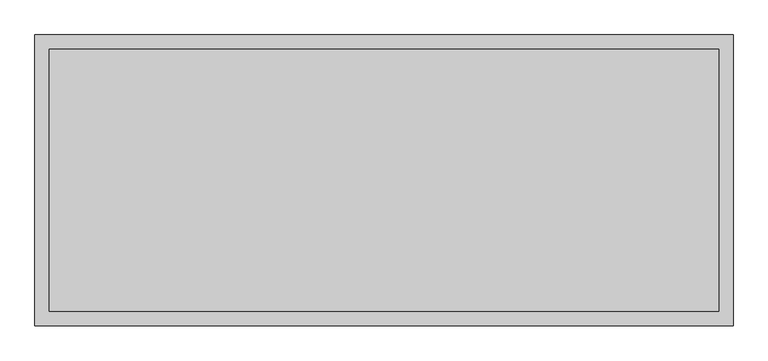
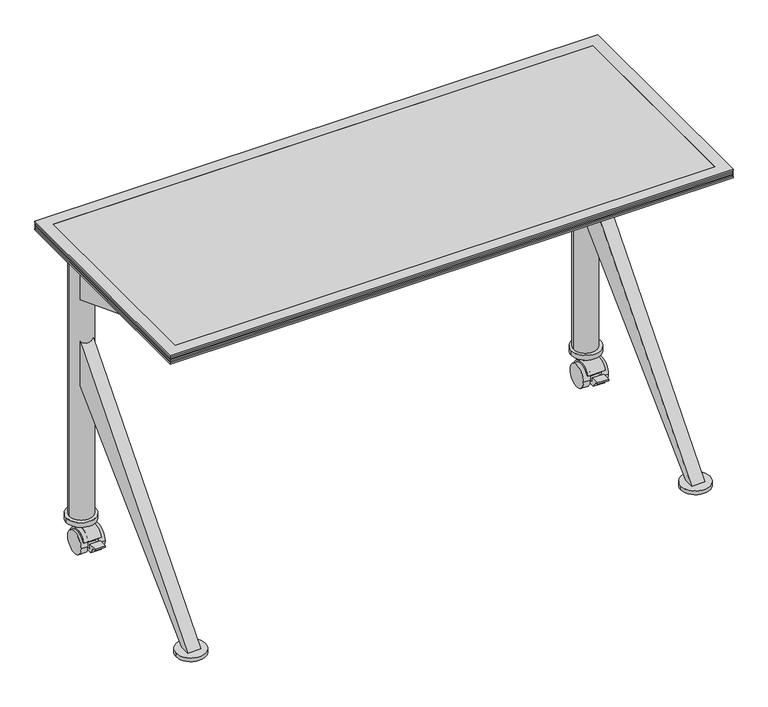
"""IFC4 building model written with IfcOpenShell, lengths in millimetres: furniture geometry, Coalesse_AM_Table_Conference_Ballet_Rectangular_KBase : Folding - 48L x 20W."""

from ifc_helpers import new_model, si_unit, point, frame, frame_2d, origin, origin_with_axes, place, context, project, spatial, polyline, circle_curve, trimmed, segment, composite_curve, outline, extrude, faceted_brep, source, transform, mapped, element, save


def furniture_9557caa1(model_context):
    return source(origin(), model_context, "Body", "SolidModel", [
        extrude(outline(composite_curve([segment(trimmed(circle_curve(frame_2d((-547.0092495, -222.25)), 25.4), [point((-572.4092495, -222.25))], [point((-521.6092495, -222.25))], False, "CARTESIAN"), True, "CONTINUOUS"), segment(trimmed(circle_curve(frame_2d((-547.0092495, -222.25)), 25.4), [point((-521.6092495, -222.25))], [point((-572.4092495, -222.25))], False, "CARTESIAN"), True, "CONTINUOUS")], self_intersect=False)), origin_with_axes(), (0.0, 0.0, 1.0), 4.2936144),
        extrude(outline(composite_curve([segment(trimmed(circle_curve(frame_2d((546.2624629, -222.25)), 25.4), [point((520.8624629, -222.25))], [point((571.6624629, -222.25))], False, "CARTESIAN"), True, "CONTINUOUS"), segment(trimmed(circle_curve(frame_2d((546.2624629, -222.25)), 25.4), [point((571.6624629, -222.25))], [point((520.8624629, -222.25))], False, "CARTESIAN"), True, "CONTINUOUS")], self_intersect=False)), origin_with_axes(), (0.0, 0.0, 1.0), 4.2936144),
        extrude(outline(composite_curve([segment(polyline([(198.5604217, 14.7931869), (195.6491351, 16.4051117)]), True, "CONTINUOUS"), segment(trimmed(circle_curve(frame_2d((172.2336856, 24.9907393)), 24.9398531), [point((195.6491351, 16.4051117))], [point((149.7459564, 35.7749086))], True, "CARTESIAN"), True, "CONTINUOUS"), segment(polyline([(149.7459564, 35.7749086), (146.3203751, 36.8601197)]), True, "CONTINUOUS"), segment(trimmed(circle_curve(frame_2d((171.5646326, 26.7032164)), 27.2109394), [point((146.3203751, 36.8601197))], [point((183.1847122, 51.3082762))], False, "CARTESIAN"), True, "CONTINUOUS"), segment(trimmed(circle_curve(frame_2d((173.1211664, 25.8930561)), 27.3351124), [point((183.1847122, 51.3082762))], [point((198.5604217, 35.8956886))], False, "CARTESIAN"), True, "CONTINUOUS"), segment(trimmed(circle_curve(frame_2d((171.7258895, 25.3444377)), 28.8343721), [point((198.5604217, 35.8956886))], [point((198.5604217, 14.7931869))], False, "CARTESIAN"), True, "CONTINUOUS")], self_intersect=False)), frame((526.2279182, 0.0, 0.0), z_axis=(1.0, 0.0, 0.0), x_axis=(0.0, 1.0, 0.0)), (0.0, 0.0, 1.0), 37.985857),
        extrude(outline(composite_curve([segment(trimmed(circle_curve(frame_2d((172.2336856, 24.9907393)), 24.9398531), [point((147.2938325, 24.9907393))], [point((197.1735388, 24.9907393))], False, "CARTESIAN"), True, "CONTINUOUS"), segment(trimmed(circle_curve(frame_2d((172.2336856, 24.9907393)), 24.9398531), [point((197.1735388, 24.9907393))], [point((147.2938325, 24.9907393))], False, "CARTESIAN"), True, "CONTINUOUS")], self_intersect=False)), frame((517.0801992, 0.0, 0.0), z_axis=(1.0, 0.0, 0.0), x_axis=(0.0, 1.0, 0.0)), (0.0, 0.0, 1.0), 14.732),
        extrude(outline(composite_curve([segment(polyline([(183.1847122, 63.5225277), (198.5604217, 63.5225277), (198.5604217, 35.8956886)]), True, "CONTINUOUS"), segment(trimmed(circle_curve(frame_2d((171.7258895, 25.3444377)), 28.8343721), [point((198.5604217, 35.8956886))], [point((198.5604217, 14.7931869))], False, "CARTESIAN"), True, "CONTINUOUS"), segment(polyline([(198.5604217, 14.7931869), (185.095607, 22.2484025), (182.0197341, 16.6930892)]), True, "CONTINUOUS"), segment(trimmed(circle_curve(frame_2d((172.327305, 25.0010719)), 12.7658043), [point((182.0197341, 16.6930892))], [point((162.0624455, 17.4117096))], False, "CARTESIAN"), True, "CONTINUOUS"), segment(polyline([(162.0624455, 17.4117096), (136.293848, 17.4117096), (127.3223524, 31.7691038), (120.5969156, 31.7691038), (120.5969156, 35.1210973), (139.6469156, 35.1210973), (139.6469156, 25.0010719), (158.9362269, 25.0010719), (161.1998286, 32.1463658), (146.3203751, 36.8601197)]), True, "CONTINUOUS"), segment(trimmed(circle_curve(frame_2d((171.5646326, 26.7032164)), 27.2109394), [point((146.3203751, 36.8601197))], [point((183.1847122, 51.3082762))], False, "CARTESIAN"), True, "CONTINUOUS"), segment(polyline([(183.1847122, 51.3082762), (183.1847122, 63.5225277)]), True, "CONTINUOUS")], self_intersect=False)), frame((531.8121992, 0.0, 0.0), z_axis=(1.0, 0.0, 0.0), x_axis=(0.0, 1.0, 0.0)), (0.0, 0.0, 1.0), 24.5934543),
        extrude(outline(composite_curve([segment(trimmed(circle_curve(frame_2d((172.2336856, 24.9907393)), 24.9398531), [point((147.2938325, 24.9907393))], [point((197.1735388, 24.9907393))], False, "CARTESIAN"), True, "CONTINUOUS"), segment(trimmed(circle_curve(frame_2d((172.2336856, 24.9907393)), 24.9398531), [point((197.1735388, 24.9907393))], [point((147.2938325, 24.9907393))], False, "CARTESIAN"), True, "CONTINUOUS")], self_intersect=False)), frame((556.4056535, 0.0, 0.0), z_axis=(1.0, 0.0, 0.0), x_axis=(0.0, 1.0, 0.0)), (0.0, 0.0, 1.0), 14.732),
        extrude(outline(composite_curve([segment(trimmed(circle_curve(frame_2d((546.9954026, 189.7212308)), 31.75), [point((578.7454026, 189.7212308))], [point((515.2454026, 189.7212308))], False, "CARTESIAN"), True, "CONTINUOUS"), segment(trimmed(circle_curve(frame_2d((546.9954026, 189.7212308)), 31.75), [point((515.2454026, 189.7212308))], [point((578.7454026, 189.7212308))], False, "CARTESIAN"), True, "CONTINUOUS")], self_intersect=False)), frame((0.0, 0.0, 62.0397209), z_axis=(0.0, 0.0, 1.0), x_axis=(1.0, 0.0, 0.0)), (0.0, 0.0, 1.0), 10.7840801),
        extrude(outline(composite_curve([segment(polyline([(198.5604217, 14.7931869), (195.6491351, 16.4051117)]), True, "CONTINUOUS"), segment(trimmed(circle_curve(frame_2d((172.2336856, 24.9907393)), 24.9398531), [point((195.6491351, 16.4051117))], [point((149.7459564, 35.7749086))], True, "CARTESIAN"), True, "CONTINUOUS"), segment(polyline([(149.7459564, 35.7749086), (146.3203751, 36.8601197)]), True, "CONTINUOUS"), segment(trimmed(circle_curve(frame_2d((171.5646326, 26.7032164)), 27.2109394), [point((146.3203751, 36.8601197))], [point((183.1847122, 51.3082762))], False, "CARTESIAN"), True, "CONTINUOUS"), segment(trimmed(circle_curve(frame_2d((173.1211664, 25.8930561)), 27.3351124), [point((183.1847122, 51.3082762))], [point((198.5604217, 35.8956886))], False, "CARTESIAN"), True, "CONTINUOUS"), segment(trimmed(circle_curve(frame_2d((171.7258895, 25.3444377)), 28.8343721), [point((198.5604217, 35.8956886))], [point((198.5604217, 14.7931869))], False, "CARTESIAN"), True, "CONTINUOUS")], self_intersect=False)), frame((-565.6010267, 0.0, 0.0), z_axis=(1.0, 0.0, 0.0), x_axis=(0.0, 1.0, 0.0)), (0.0, 0.0, 1.0), 37.7563315),
        extrude(outline(composite_curve([segment(trimmed(circle_curve(frame_2d((172.2336856, 24.9907393)), 24.9398531), [point((147.2938325, 24.9907393))], [point((197.1735388, 24.9907393))], False, "CARTESIAN"), True, "CONTINUOUS"), segment(trimmed(circle_curve(frame_2d((172.2336856, 24.9907393)), 24.9398531), [point((197.1735388, 24.9907393))], [point((147.2938325, 24.9907393))], False, "CARTESIAN"), True, "CONTINUOUS")], self_intersect=False)), frame((-533.9822707, 0.0, 0.0), z_axis=(1.0, 0.0, 0.0), x_axis=(0.0, 1.0, 0.0)), (0.0, 0.0, 1.0), 14.732),
        extrude(outline(composite_curve([segment(polyline([(183.1847122, 63.5225277), (198.5604217, 63.5225277), (198.5604217, 35.8956886)]), True, "CONTINUOUS"), segment(trimmed(circle_curve(frame_2d((171.7258895, 25.3444377)), 28.8343721), [point((198.5604217, 35.8956886))], [point((198.5604217, 14.7931869))], False, "CARTESIAN"), True, "CONTINUOUS"), segment(polyline([(198.5604217, 14.7931869), (185.095607, 22.2484025), (182.0197341, 16.6930892)]), True, "CONTINUOUS"), segment(trimmed(circle_curve(frame_2d((172.327305, 25.0010719)), 12.7658043), [point((182.0197341, 16.6930892))], [point((162.0624455, 17.4117096))], False, "CARTESIAN"), True, "CONTINUOUS"), segment(polyline([(162.0624455, 17.4117096), (136.293848, 17.4117096), (127.3223524, 31.7691038), (120.5969156, 31.7691038), (120.5969156, 35.1210973), (139.6469156, 35.1210973), (139.6469156, 25.0010719), (158.9362269, 25.0010719), (161.1998286, 32.1463658), (146.3203751, 36.8601197)]), True, "CONTINUOUS"), segment(trimmed(circle_curve(frame_2d((171.5646326, 26.7032164)), 27.2109394), [point((146.3203751, 36.8601197))], [point((183.1847122, 51.3082762))], False, "CARTESIAN"), True, "CONTINUOUS"), segment(polyline([(183.1847122, 51.3082762), (183.1847122, 63.5225277)]), True, "CONTINUOUS")], self_intersect=False)), frame((-556.4056535, 0.0, 0.0), z_axis=(1.0, 0.0, 0.0), x_axis=(0.0, 1.0, 0.0)), (0.0, 0.0, 1.0), 22.4233828),
        extrude(outline(composite_curve([segment(trimmed(circle_curve(frame_2d((172.2336856, 24.9907393)), 24.9398531), [point((147.2938325, 24.9907393))], [point((197.1735388, 24.9907393))], False, "CARTESIAN"), True, "CONTINUOUS"), segment(trimmed(circle_curve(frame_2d((172.2336856, 24.9907393)), 24.9398531), [point((197.1735388, 24.9907393))], [point((147.2938325, 24.9907393))], False, "CARTESIAN"), True, "CONTINUOUS")], self_intersect=False)), frame((-571.1376535, 0.0, 0.0), z_axis=(1.0, 0.0, 0.0), x_axis=(0.0, 1.0, 0.0)), (0.0, 0.0, 1.0), 14.732),
        extrude(outline(composite_curve([segment(trimmed(circle_curve(frame_2d((-546.9954026, 189.7212308)), 31.75), [point((-578.7454026, 189.7212308))], [point((-515.2454026, 189.7212308))], False, "CARTESIAN"), True, "CONTINUOUS"), segment(trimmed(circle_curve(frame_2d((-546.9954026, 189.7212308)), 31.75), [point((-515.2454026, 189.7212308))], [point((-578.7454026, 189.7212308))], False, "CARTESIAN"), True, "CONTINUOUS")], self_intersect=False)), frame((0.0, 0.0, 62.0397209), z_axis=(0.0, 0.0, 1.0), x_axis=(1.0, 0.0, 0.0)), (0.0, 0.0, 1.0), 10.7840801),
        extrude(outline(composite_curve([segment(trimmed(circle_curve(frame_2d((-546.1003633, 190.5)), 25.4), [point((-571.5003633, 190.5))], [point((-520.7003633, 190.5))], False, "CARTESIAN"), True, "CONTINUOUS"), segment(trimmed(circle_curve(frame_2d((-546.1003633, 190.5)), 25.4), [point((-520.7003633, 190.5))], [point((-571.5003633, 190.5))], False, "CARTESIAN"), True, "CONTINUOUS")], self_intersect=False)), frame((0.0, 0.0, 72.823801), z_axis=(0.0, 0.0, 1.0), x_axis=(1.0, 0.0, 0.0)), (0.0, 0.0, 1.0), 625.6762232),
        extrude(outline(composite_curve([segment(trimmed(circle_curve(frame_2d((546.1003633, 190.5)), 25.4), [point((520.7003633, 190.5))], [point((571.5003633, 190.5))], False, "CARTESIAN"), True, "CONTINUOUS"), segment(trimmed(circle_curve(frame_2d((546.1003633, 190.5)), 25.4), [point((571.5003633, 190.5))], [point((520.7003633, 190.5))], False, "CARTESIAN"), True, "CONTINUOUS")], self_intersect=False)), frame((0.0, 0.0, 72.823801), z_axis=(0.0, 0.0, 1.0), x_axis=(1.0, 0.0, 0.0)), (0.0, 0.0, 1.0), 625.6762232),
        extrude(outline(polyline([(169.4656271, 577.7388634), (-142.874901, 698.5000242), (-111.124901, 698.5000242), (169.4656271, 641.3500242), (169.4656271, 577.7388634)])), frame((-560.4007845, 0.0, 0.0), z_axis=(1.0, 0.0, 0.0), x_axis=(0.0, 1.0, 0.0)), (0.0, 0.0, 1.0), 28.5877899),
        extrude(outline(polyline([(169.4656271, 381.0), (-211.1375951, 12.7), (-233.3624013, 12.7), (169.4656271, 482.7111245), (169.4656271, 381.0)])), frame((-560.4007845, 0.0, 0.0), z_axis=(1.0, 0.0, 0.0), x_axis=(0.0, 1.0, 0.0)), (0.0, 0.0, 1.0), 28.5877899),
        extrude(outline(polyline([(169.4656271, 577.7388634), (-142.874901, 698.5000242), (-111.124901, 698.5000242), (169.4656271, 641.3500242), (169.4656271, 577.7388634)])), frame((531.8121992, 0.0, 0.0), z_axis=(1.0, 0.0, 0.0), x_axis=(0.0, 1.0, 0.0)), (0.0, 0.0, 1.0), 28.575),
        extrude(outline(polyline([(169.4656271, 381.0), (-211.1375951, 12.7), (-233.3624013, 12.7), (169.4656271, 482.7111245), (169.4656271, 381.0)])), frame((531.8121992, 0.0, 0.0), z_axis=(1.0, 0.0, 0.0), x_axis=(0.0, 1.0, 0.0)), (0.0, 0.0, 1.0), 28.575),
        extrude(outline(composite_curve([segment(trimmed(circle_curve(frame_2d((-547.0092495, -222.25)), 31.75), [point((-578.7592495, -222.25))], [point((-515.2592495, -222.25))], False, "CARTESIAN"), True, "CONTINUOUS"), segment(trimmed(circle_curve(frame_2d((-547.0092495, -222.25)), 31.75), [point((-515.2592495, -222.25))], [point((-578.7592495, -222.25))], False, "CARTESIAN"), True, "CONTINUOUS")], self_intersect=False)), frame((0.0, 0.0, 4.2936144), z_axis=(0.0, 0.0, 1.0), x_axis=(1.0, 0.0, 0.0)), (0.0, 0.0, 1.0), 8.4063856),
        extrude(outline(composite_curve([segment(trimmed(circle_curve(frame_2d((546.2624629, -222.25)), 31.75), [point((514.5124629, -222.25))], [point((578.0124629, -222.25))], False, "CARTESIAN"), True, "CONTINUOUS"), segment(trimmed(circle_curve(frame_2d((546.2624629, -222.25)), 31.75), [point((578.0124629, -222.25))], [point((514.5124629, -222.25))], False, "CARTESIAN"), True, "CONTINUOUS")], self_intersect=False)), frame((0.0, 0.0, 4.2936144), z_axis=(0.0, 0.0, 1.0), x_axis=(1.0, 0.0, 0.0)), (0.0, 0.0, 1.0), 8.4063856),
        faceted_brep([(-609.6003633, 254.0, 704.85), (-584.2003876, 228.6000242, 698.5000242), (-584.2003876, -228.5999516, 698.5000242), (-609.6003633, -253.9999273, 704.85), (-609.6003633, 254.0, 708.0250242), (-609.6003633, -253.9999273, 708.0250242), (-606.4253755, 250.8250121, 709.6125), (-606.4253755, -250.8249394, 709.6125), (-609.6003633, 254.0, 711.1999758), (-609.6003633, -253.9999273, 711.1999758), (-606.4253755, 250.8250121, 712.7875242), (-606.4253755, -250.8249394, 712.7875242), (-609.6003633, 254.0, 714.375), (-609.6003633, -253.9999273, 714.375), (-606.4253755, 250.8250121, 715.9624758), (-606.4253755, -250.8249394, 715.9624758), (-609.6003633, 254.0, 717.5500242), (-609.6003633, -253.9999273, 717.5500242), (-606.4253755, 250.8250121, 719.1375), (-606.4253755, -250.8249394, 719.1375), (-609.6003633, 254.0, 720.7249758), (-609.6003633, -253.9999273, 720.7249758), (-609.6003633, 254.0, 723.9), (-609.6003633, -253.9999273, 723.9), (-584.2003876, 228.6000242, 723.9), (-584.2003876, -228.5999516, 723.9), (584.1998062, -228.5999516, 698.5000242), (609.599782, -253.9999273, 704.85), (609.599782, -253.9999273, 708.0250242), (606.4247941, -250.8249394, 709.6125), (609.599782, -253.9999273, 711.1999758), (606.4247941, -250.8249394, 712.7875242), (609.599782, -253.9999273, 714.375), (606.4247941, -250.8249394, 715.9624758), (609.599782, -253.9999273, 717.5500242), (606.4247941, -250.8249394, 719.1375), (609.599782, -253.9999273, 720.7249758), (609.599782, -253.9999273, 723.9), (584.1998062, -228.5999516, 723.9), (584.1998062, 228.6000242, 698.5000242), (609.599782, 254.0, 704.85), (609.599782, 254.0, 708.0250242), (606.4247941, 250.8250121, 709.6125), (609.599782, 254.0, 711.1999758), (606.4247941, 250.8250121, 712.7875242), (609.599782, 254.0, 714.375), (606.4247941, 250.8250121, 715.9624758), (609.599782, 254.0, 717.5500242), (606.4247941, 250.8250121, 719.1375), (609.599782, 254.0, 720.7249758), (609.599782, 254.0, 723.9), (584.1998062, 228.6000242, 723.9)], [[[0, 1, 2, 3]], [[4, 0, 3, 5]], [[6, 4, 5, 7]], [[8, 6, 7, 9]], [[10, 8, 9, 11]], [[12, 10, 11, 13]], [[14, 12, 13, 15]], [[16, 14, 15, 17]], [[18, 16, 17, 19]], [[20, 18, 19, 21]], [[22, 20, 21, 23]], [[1, 24, 25, 2]], [[3, 2, 26, 27]], [[5, 3, 27, 28]], [[7, 5, 28, 29]], [[9, 7, 29, 30]], [[11, 9, 30, 31]], [[13, 11, 31, 32]], [[15, 13, 32, 33]], [[17, 15, 33, 34]], [[19, 17, 34, 35]], [[21, 19, 35, 36]], [[23, 21, 36, 37]], [[2, 25, 38, 26]], [[27, 26, 39, 40]], [[28, 27, 40, 41]], [[29, 28, 41, 42]], [[30, 29, 42, 43]], [[31, 30, 43, 44]], [[32, 31, 44, 45]], [[33, 32, 45, 46]], [[34, 33, 46, 47]], [[35, 34, 47, 48]], [[36, 35, 48, 49]], [[37, 36, 49, 50]], [[26, 38, 51, 39]], [[40, 39, 1, 0]], [[41, 40, 0, 4]], [[42, 41, 4, 6]], [[43, 42, 6, 8]], [[44, 43, 8, 10]], [[45, 44, 10, 12]], [[46, 45, 12, 14]], [[47, 46, 14, 16]], [[48, 47, 16, 18]], [[49, 48, 18, 20]], [[50, 49, 20, 22]], [[23, 37, 50, 22], [24, 51, 38, 25]], [[39, 51, 24, 1]]]),
        extrude(outline(polyline([(584.1998062, 228.6000242), (584.1998062, -228.5999516), (-584.2003876, -228.5999516), (-584.2003876, 228.6000242), (584.1998062, 228.6000242)])), frame((0.0, 0.0, 704.85), z_axis=(0.0, 0.0, 1.0), x_axis=(1.0, 0.0, 0.0)), (0.0, 0.0, 1.0), 19.05),
    ])


if __name__ == "__main__":
    model = new_model("IFC4")
    model_context = context("Model", 3, world=origin())
    ifc_project = project(units=[si_unit("LENGTHUNIT", "METRE", prefix="MILLI")], contexts=[model_context])
    site = spatial("IfcSite", under=ifc_project)
    building = spatial("IfcBuilding", under=site)
    placement = place(None, origin())
    furniture_shape = furniture_9557caa1(model_context)
    element("IfcFurniture", 1, ObjectType="Coalesse_AM_Table_Conference_Ballet_Rectangular_KBase : Folding - 48L x 20W", at=placement, inside=building, context=model_context, shape_type="MappedRepresentation", body=[
        mapped(furniture_shape, transform((0.0, 0.0, 0.0), x_axis=(1.0, 0.0, 0.0), y_axis=(0.0, 1.0, 0.0), z_axis=(0.0, 0.0, 1.0))),
    ])
    save(model, "model.ifc")
